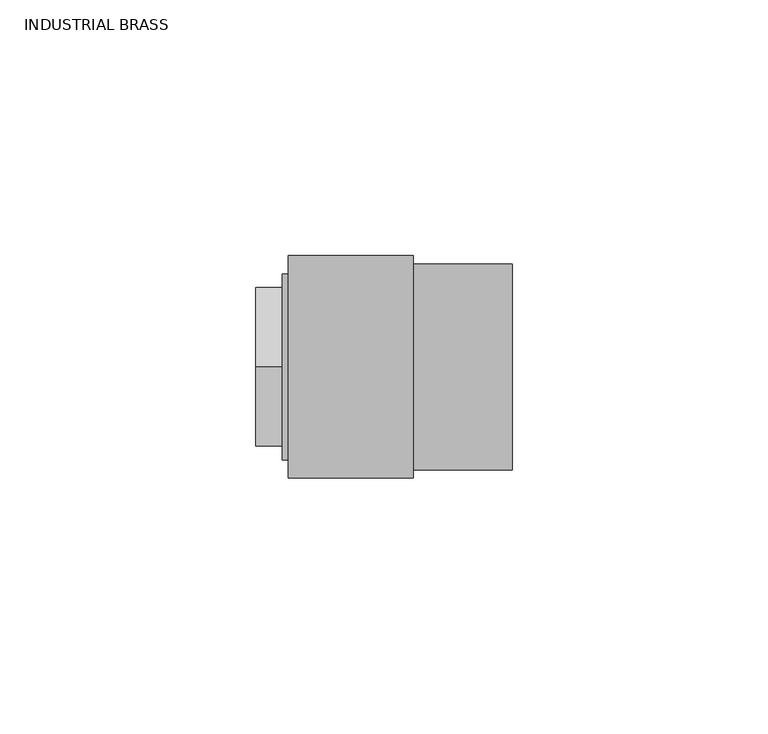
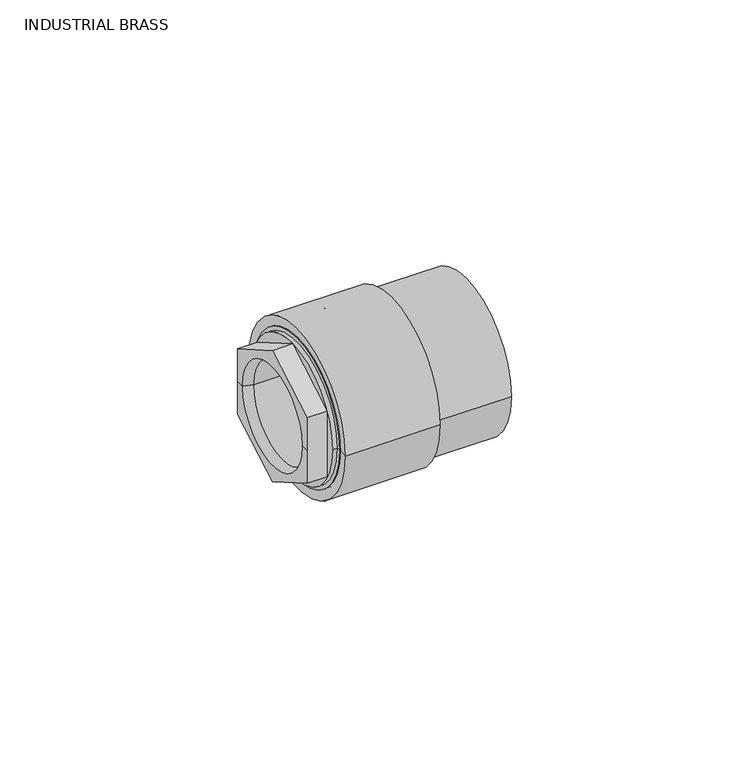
"""IFC4 building model written with IfcOpenShell, lengths in millimetres: valve geometry, Aquatherm - Transition Piece - F HEX : INDUSTRIAL BRASS."""

from ifc_helpers import new_model, si_unit, frame, origin, place, context, project, spatial, polyline, circle_curve, source, transform, mapped, element, save
from ifc_brep_helpers import plane_surface, cylinder_surface, revolved_surface, advanced_brep


def industrial_brass_06946b98(model_context):
    return source(origin(), model_context, "Body", "AdvancedBrep", [
        advanced_brep(
        [(7.14375, -12.7, 0.0), (7.14375, 12.7, 0.0), (-3.7703125, 12.7, 0.0), (-3.7703125, -12.7, 0.0), (7.14375, -13.49375, 0.0), (7.14375, 13.49375, 0.0), (10.31875, -13.49375, 0.0), (10.31875, 13.49375, 0.0), (10.31875, -9.525, 0.0), (10.31875, 9.525, 0.0), (13.49375, -9.525, 0.0), (13.49375, 9.525, 0.0), (13.49375, -19.177, 0.0), (13.49375, 19.177, 0.0), (0.0, -19.177, 0.0), (0.0, 19.177, 0.0), (-6.35, -13.49375, 0.0), (-6.35, 13.49375, 0.0), (-6.35, 15.494, 0.0), (-6.35, 15.494, -8.9454651), (-6.35, 0.0, -17.8909301), (-6.35, -15.494, -8.9454651), (-6.35, -15.494, 0.0), (-6.35, -15.494, 8.9454651), (-6.35, 0.0, 17.8909301), (-6.35, 15.494, 8.9454651), (0.0, -18.161, 0.0), (0.0, 18.161, 0.0), (-1.190625, -18.161, 0.0), (-1.190625, 18.161, 0.0), (-1.190625, 0.0, -17.8909301), (-1.190625, 15.494, -8.9454651), (-1.190625, 15.494, 8.9454651), (-1.190625, 0.0, 17.8909301), (-1.190625, -15.494, 8.9454651), (-1.190625, -15.494, -8.9454651)],
        [
            (0, 1, circle_curve(frame((7.14375, 0.0, 0.0), z_axis=(1.0, 0.0, 0.0), x_axis=(0.0, 1.0, 0.0)), 12.7)),
            (1, 2),
            (2, 3, circle_curve(frame((-3.7703125, 0.0, 0.0), z_axis=(-1.0, 0.0, 0.0), x_axis=(0.0, 1.0, 0.0)), 12.7)),
            (3, 0),
            (1, 0, circle_curve(frame((7.14375, 0.0, 0.0), z_axis=(1.0, 0.0, 0.0), x_axis=(0.0, 1.0, 0.0)), 12.7)),
            (3, 2, circle_curve(frame((-3.7703125, 0.0, 0.0), z_axis=(-1.0, 0.0, 0.0), x_axis=(0.0, 1.0, 0.0)), 12.7)),
            (0, 4),
            (4, 5, circle_curve(frame((7.14375, 0.0, 0.0), z_axis=(1.0, 0.0, 0.0), x_axis=(0.0, 1.0, 0.0)), 13.49375)),
            (5, 1),
            (5, 4, circle_curve(frame((7.14375, 0.0, 0.0), z_axis=(1.0, 0.0, 0.0), x_axis=(0.0, 1.0, 0.0)), 13.49375)),
            (4, 6),
            (6, 7, circle_curve(frame((10.31875, 0.0, 0.0), z_axis=(1.0, 0.0, 0.0), x_axis=(0.0, 1.0, 0.0)), 13.49375)),
            (7, 5),
            (7, 6, circle_curve(frame((10.31875, 0.0, 0.0), z_axis=(1.0, 0.0, 0.0), x_axis=(0.0, 1.0, 0.0)), 13.49375)),
            (6, 8),
            (8, 9, circle_curve(frame((10.31875, 0.0, 0.0), z_axis=(1.0, 0.0, 0.0), x_axis=(0.0, 1.0, 0.0)), 9.525)),
            (9, 7),
            (9, 8, circle_curve(frame((10.31875, 0.0, 0.0), z_axis=(1.0, 0.0, 0.0), x_axis=(0.0, 1.0, 0.0)), 9.525)),
            (8, 10),
            (10, 11, circle_curve(frame((13.49375, 0.0, 0.0), z_axis=(1.0, 0.0, 0.0), x_axis=(0.0, 1.0, 0.0)), 9.525)),
            (11, 9),
            (11, 10, circle_curve(frame((13.49375, 0.0, 0.0), z_axis=(1.0, 0.0, 0.0), x_axis=(0.0, 1.0, 0.0)), 9.525)),
            (10, 12),
            (12, 13, circle_curve(frame((13.49375, 0.0, 0.0), z_axis=(1.0, 0.0, 0.0), x_axis=(0.0, 1.0, 0.0)), 19.177)),
            (13, 11),
            (13, 12, circle_curve(frame((13.49375, 0.0, 0.0), z_axis=(1.0, 0.0, 0.0), x_axis=(0.0, 1.0, 0.0)), 19.177)),
            (12, 14),
            (14, 15, circle_curve(frame((0.0, 0.0, 0.0), z_axis=(1.0, 0.0, 0.0), x_axis=(0.0, 1.0, 0.0)), 19.177)),
            (15, 13),
            (15, 14, circle_curve(frame((0.0, 0.0, 0.0), z_axis=(1.0, 0.0, 0.0), x_axis=(0.0, 1.0, 0.0)), 19.177)),
            (16, 17, circle_curve(frame((-6.35, 0.0, 0.0), z_axis=(1.0, 0.0, 0.0), x_axis=(0.0, 1.0, 0.0)), 13.49375)),
            (17, 18),
            (18, 19),
            (19, 20),
            (20, 21),
            (21, 22),
            (22, 16),
            (17, 16, circle_curve(frame((-6.35, 0.0, 0.0), z_axis=(1.0, 0.0, 0.0), x_axis=(0.0, 1.0, 0.0)), 13.49375)),
            (22, 23),
            (23, 24),
            (24, 25),
            (25, 18),
            (2, 17),
            (16, 3),
            (14, 26),
            (26, 27, circle_curve(frame((0.0, 0.0, 0.0), z_axis=(1.0, 0.0, 0.0), x_axis=(0.0, 1.0, 0.0)), 18.161)),
            (27, 15),
            (27, 26, circle_curve(frame((0.0, 0.0, 0.0), z_axis=(1.0, 0.0, 0.0), x_axis=(0.0, 1.0, 0.0)), 18.161)),
            (26, 28),
            (28, 29, circle_curve(frame((-1.190625, 0.0, 0.0), z_axis=(1.0, 0.0, 0.0), x_axis=(0.0, 1.0, 0.0)), 18.161)),
            (29, 27),
            (29, 28, circle_curve(frame((-1.190625, 0.0, 0.0), z_axis=(1.0, 0.0, 0.0), x_axis=(0.0, 1.0, 0.0)), 18.161)),
            (30, 31),
            (31, 32),
            (32, 33),
            (33, 34),
            (34, 35),
            (35, 30),
            (35, 21),
            (20, 30),
            (34, 23),
            (33, 24),
            (32, 25),
            (31, 19),
        ],
        [
            revolved_surface(polyline([(-3.7703125, 12.7, 0.0), (7.143749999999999, 12.7, 0.0)]), (-8.1832251, 0.0, 0.0), (-1.0, 0.0, 0.0)),
            plane_surface(frame((7.14375, 0.0, 0.0), z_axis=(1.0, 0.0, 0.0), x_axis=(0.0, 1.0, 0.0))),
            revolved_surface(polyline([(7.143749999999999, 13.49375, 0.0), (10.31875, 13.49375, 0.0)]), (-8.1832251, 0.0, 0.0), (-1.0, 0.0, 0.0)),
            plane_surface(frame((10.31875, 0.0, 0.0), z_axis=(-1.0, 0.0, 0.0), x_axis=(0.0, 1.0, 0.0))),
            revolved_surface(polyline([(10.31875, 9.525, 0.0), (13.49375, 9.525, 0.0)]), (-8.1832251, 0.0, 0.0), (-1.0, 0.0, 0.0)),
            plane_surface(frame((13.49375, 0.0, 0.0), z_axis=(1.0, 0.0, 0.0), x_axis=(0.0, 1.0, 0.0))),
            cylinder_surface(frame((-8.1832251, 0.0, 0.0), z_axis=(-1.0, 0.0, 0.0), x_axis=(0.0, 1.0, 0.0)), 19.177),
            plane_surface(frame((-6.35, 0.0, 0.0), z_axis=(-1.0, 0.0, 0.0), x_axis=(0.0, 1.0, 0.0))),
            revolved_surface(polyline([(-6.35, 13.49375, 0.0), (-3.7703125, 12.7, 0.0)]), (-8.1832251, 0.0, 0.0), (-1.0, 0.0, 0.0)),
            plane_surface(frame((0.0, 0.0, 0.0), z_axis=(-1.0, 0.0, 0.0), x_axis=(0.0, 1.0, 0.0))),
            cylinder_surface(frame((-8.1832251, 0.0, 0.0), z_axis=(-1.0, 0.0, 0.0), x_axis=(0.0, 1.0, 0.0)), 18.161),
            plane_surface(frame((-1.190625, -15.494, -8.9454651), z_axis=(-1.0000000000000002, 0.0, 0.0), x_axis=(0.0, -0.8660254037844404, 0.49999999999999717))),
            plane_surface(frame((-1.190625, 0.0, -17.8909301), z_axis=(0.0, -0.49999999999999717, -0.8660254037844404), x_axis=(-1.0, 0.0, 0.0))),
            plane_surface(frame((-1.190625, -15.494, -8.9454651), z_axis=(0.0, -1.0, 0.0), x_axis=(-1.0, 0.0, 0.0))),
            plane_surface(frame((-1.190625, -15.494, 8.9454651), z_axis=(0.0, -0.5000000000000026, 0.8660254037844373), x_axis=(-1.0, 0.0, 0.0))),
            plane_surface(frame((-1.190625, 0.0, 17.8909301), z_axis=(0.0, 0.4999999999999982, 0.8660254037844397), x_axis=(-1.0, 0.0, 0.0))),
            plane_surface(frame((-1.190625, 15.494, 8.9454651), z_axis=(0.0, 1.0, 0.0), x_axis=(-1.0, 0.0, 0.0))),
            plane_surface(frame((-1.190625, 15.494, -8.9454651), z_axis=(0.0, 0.5000000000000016, -0.8660254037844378), x_axis=(-1.0, 0.0, 0.0))),
        ],
        [
            (0, [[1, 2, 3, 4]]),
            (0, [[-2, 5, -4, 6]]),
            (1, [[-1, 7, 8, 9]]),
            (1, [[-5, -9, 10, -7]]),
            (2, [[-8, 11, 12, 13]]),
            (2, [[-10, -13, 14, -11]]),
            (3, [[-12, 15, 16, 17]]),
            (3, [[-14, -17, 18, -15]]),
            (4, [[-16, 19, 20, 21]]),
            (4, [[-18, -21, 22, -19]]),
            (5, [[-20, 23, 24, 25]]),
            (5, [[-22, -25, 26, -23]]),
            (6, [[-24, 27, 28, 29]]),
            (6, [[-26, -29, 30, -27]]),
            (7, [[31, 32, 33, 34, 35, 36, 37]]),
            (7, [[38, -37, 39, 40, 41, 42, -32]]),
            (8, [[-3, 43, -31, 44]]),
            (8, [[-6, -44, -38, -43]]),
            (9, [[-28, 45, 46, 47]]),
            (9, [[-30, -47, 48, -45]]),
            (10, [[-46, 49, 50, 51]]),
            (10, [[-48, -51, 52, -49]]),
            (11, [[-50, -52], [53, 54, 55, 56, 57, 58]]),
            (12, [[-58, 59, -35, 60]]),
            (13, [[-57, 61, -39, -36, -59]]),
            (14, [[-56, 62, -40, -61]]),
            (15, [[-55, 63, -41, -62]]),
            (16, [[-54, 64, -33, -42, -63]]),
            (17, [[-53, -60, -34, -64]]),
        ],
    ),
        advanced_brep(
        [(0.0, -21.717, 0.0), (0.0, 21.717, 0.0), (24.384, 21.717, 0.0), (24.384, -21.717, 0.0), (0.0, -19.177, 0.0), (0.0, 19.177, 0.0), (13.49375, -19.177, 0.0), (13.49375, 19.177, 0.0), (13.49375, -9.525, 0.0), (13.49375, 9.525, 0.0), (27.686, -9.525, 0.0), (27.686, 9.525, 0.0), (27.686, -12.446, 0.0), (27.686, 12.446, 0.0), (43.688, -12.446, 0.0), (43.688, 12.446, 0.0), (43.688, -20.1295, 0.0), (43.688, 20.1295, 0.0), (24.384, -20.1295, 0.0), (24.384, 20.1295, 0.0)],
        [
            (0, 1, circle_curve(frame((0.0, 0.0, 0.0), z_axis=(1.0, 0.0, 0.0), x_axis=(0.0, 1.0, 0.0)), 21.717)),
            (1, 2),
            (2, 3, circle_curve(frame((24.384, 0.0, 0.0), z_axis=(-1.0, 0.0, 0.0), x_axis=(0.0, 1.0, 0.0)), 21.717)),
            (3, 0),
            (1, 0, circle_curve(frame((0.0, 0.0, 0.0), z_axis=(1.0, 0.0, 0.0), x_axis=(0.0, 1.0, 0.0)), 21.717)),
            (3, 2, circle_curve(frame((24.384, 0.0, 0.0), z_axis=(-1.0, 0.0, 0.0), x_axis=(0.0, 1.0, 0.0)), 21.717)),
            (4, 5, circle_curve(frame((0.0, 0.0, 0.0), z_axis=(1.0, 0.0, 0.0), x_axis=(0.0, 1.0, 0.0)), 19.177)),
            (5, 1),
            (0, 4),
            (5, 4, circle_curve(frame((0.0, 0.0, 0.0), z_axis=(1.0, 0.0, 0.0), x_axis=(0.0, 1.0, 0.0)), 19.177)),
            (6, 7, circle_curve(frame((13.49375, 0.0, 0.0), z_axis=(1.0, 0.0, 0.0), x_axis=(0.0, 1.0, 0.0)), 19.177)),
            (7, 5),
            (4, 6),
            (7, 6, circle_curve(frame((13.49375, 0.0, 0.0), z_axis=(1.0, 0.0, 0.0), x_axis=(0.0, 1.0, 0.0)), 19.177)),
            (8, 9, circle_curve(frame((13.49375, 0.0, 0.0), z_axis=(1.0, 0.0, 0.0), x_axis=(0.0, 1.0, 0.0)), 9.525)),
            (9, 7),
            (6, 8),
            (9, 8, circle_curve(frame((13.49375, 0.0, 0.0), z_axis=(1.0, 0.0, 0.0), x_axis=(0.0, 1.0, 0.0)), 9.525)),
            (10, 11, circle_curve(frame((27.686, 0.0, 0.0), z_axis=(1.0, 0.0, 0.0), x_axis=(0.0, 1.0, 0.0)), 9.525)),
            (11, 9),
            (8, 10),
            (11, 10, circle_curve(frame((27.686, 0.0, 0.0), z_axis=(1.0, 0.0, 0.0), x_axis=(0.0, 1.0, 0.0)), 9.525)),
            (12, 13, circle_curve(frame((27.686, 0.0, 0.0), z_axis=(1.0, 0.0, 0.0), x_axis=(0.0, 1.0, 0.0)), 12.446)),
            (13, 11),
            (10, 12),
            (13, 12, circle_curve(frame((27.686, 0.0, 0.0), z_axis=(1.0, 0.0, 0.0), x_axis=(0.0, 1.0, 0.0)), 12.446)),
            (14, 15, circle_curve(frame((43.688, 0.0, 0.0), z_axis=(1.0, 0.0, 0.0), x_axis=(0.0, 1.0, 0.0)), 12.446)),
            (15, 13),
            (12, 14),
            (15, 14, circle_curve(frame((43.688, 0.0, 0.0), z_axis=(1.0, 0.0, 0.0), x_axis=(0.0, 1.0, 0.0)), 12.446)),
            (16, 17, circle_curve(frame((43.688, 0.0, 0.0), z_axis=(1.0, 0.0, 0.0), x_axis=(0.0, 1.0, 0.0)), 20.1295)),
            (17, 15),
            (14, 16),
            (17, 16, circle_curve(frame((43.688, 0.0, 0.0), z_axis=(1.0, 0.0, 0.0), x_axis=(0.0, 1.0, 0.0)), 20.1295)),
            (18, 19, circle_curve(frame((24.384, 0.0, 0.0), z_axis=(1.0, 0.0, 0.0), x_axis=(0.0, 1.0, 0.0)), 20.1295)),
            (19, 17),
            (16, 18),
            (19, 18, circle_curve(frame((24.384, 0.0, 0.0), z_axis=(1.0, 0.0, 0.0), x_axis=(0.0, 1.0, 0.0)), 20.1295)),
            (2, 19),
            (18, 3),
        ],
        [
            cylinder_surface(frame((-14.4531162, 0.0, 0.0), z_axis=(-1.0, 0.0, 0.0), x_axis=(0.0, 1.0, 0.0)), 21.717),
            plane_surface(frame((0.0, 0.0, 0.0), z_axis=(-1.0, 0.0, 0.0), x_axis=(0.0, 1.0, 0.0))),
            revolved_surface(polyline([(0.0, 19.177, 0.0), (13.493750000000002, 19.177, 0.0)]), (-14.4531162, 0.0, 0.0), (-1.0, 0.0, 0.0)),
            plane_surface(frame((13.49375, 0.0, 0.0), z_axis=(-1.0, 0.0, 0.0), x_axis=(0.0, 1.0, 0.0))),
            revolved_surface(polyline([(13.493750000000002, 9.525, 0.0), (27.686000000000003, 9.525, 0.0)]), (-14.4531162, 0.0, 0.0), (-1.0, 0.0, 0.0)),
            plane_surface(frame((27.686, 0.0, 0.0), z_axis=(1.0, 0.0, 0.0), x_axis=(0.0, 1.0, 0.0))),
            revolved_surface(polyline([(27.686000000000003, 12.446, 0.0), (43.688, 12.446, 0.0)]), (-14.4531162, 0.0, 0.0), (-1.0, 0.0, 0.0)),
            plane_surface(frame((43.688, 0.0, 0.0), z_axis=(1.0, 0.0, 0.0), x_axis=(0.0, 1.0, 0.0))),
            cylinder_surface(frame((-14.4531162, 0.0, 0.0), z_axis=(-1.0, 0.0, 0.0), x_axis=(0.0, 1.0, 0.0)), 20.1295),
            plane_surface(frame((24.384, 0.0, 0.0), z_axis=(1.0, 0.0, 0.0), x_axis=(0.0, 1.0, 0.0))),
        ],
        [
            (0, [[1, 2, 3, 4]]),
            (0, [[5, -4, 6, -2]]),
            (1, [[7, 8, -1, 9]]),
            (1, [[10, -9, -5, -8]]),
            (2, [[11, 12, -7, 13]]),
            (2, [[14, -13, -10, -12]]),
            (3, [[15, 16, -11, 17]]),
            (3, [[18, -17, -14, -16]]),
            (4, [[19, 20, -15, 21]]),
            (4, [[22, -21, -18, -20]]),
            (5, [[23, 24, -19, 25]]),
            (5, [[26, -25, -22, -24]]),
            (6, [[27, 28, -23, 29]]),
            (6, [[30, -29, -26, -28]]),
            (7, [[31, 32, -27, 33]]),
            (7, [[34, -33, -30, -32]]),
            (8, [[35, 36, -31, 37]]),
            (8, [[38, -37, -34, -36]]),
            (9, [[-3, 39, -35, 40]]),
            (9, [[-6, -40, -38, -39]]),
        ],
    ),
    ])


if __name__ == "__main__":
    model = new_model("IFC4")
    model_context = context("Model", 3, world=origin())
    ifc_project = project(units=[si_unit("LENGTHUNIT", "METRE", prefix="MILLI")], contexts=[model_context])
    site = spatial("IfcSite", under=ifc_project)
    building = spatial("IfcBuilding", under=site)
    placement = place(None, origin())
    industrial_brass_shape = industrial_brass_06946b98(model_context)
    element("IfcValve", 1, ObjectType="Aquatherm - Transition Piece - F HEX : INDUSTRIAL BRASS", at=placement, inside=building, context=model_context, shape_type="MappedRepresentation", body=[
        mapped(industrial_brass_shape, transform((0.0, 0.0, 0.0), x_axis=(1.0, 0.0, 0.0), y_axis=(0.0, 1.0, 0.0), z_axis=(0.0, 0.0, 1.0))),
    ])
    save(model, "model.ifc")
